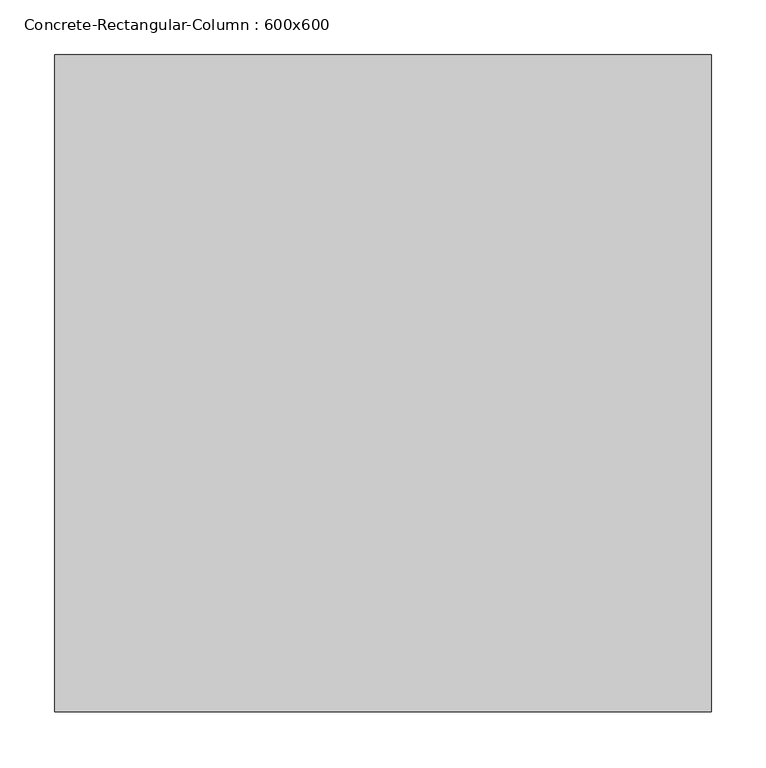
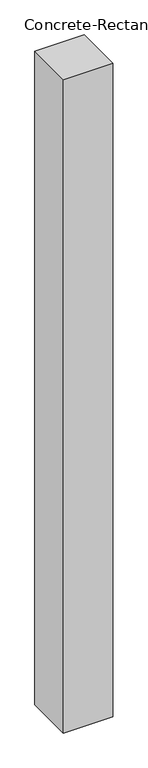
"""IFC4 building model written with IfcOpenShell, lengths in millimetres: column geometry, Concrete-Rectangular-Column : 600x600."""

from ifc_helpers import new_model, si_unit, frame, origin, place, context, project, spatial, polyline, outline, extrude, source, transform, mapped, element, save


def concrete_rectangular_column_600x600_795a6e5d(model_context):
    return source(origin(), model_context, "Body", "SweptSolid", [
        extrude(outline(polyline([(300.0, 300.0), (300.0, -300.0), (-300.0, -300.0), (-300.0, 300.0), (300.0, 300.0)])), frame((0.0, 0.0, -7500.0), z_axis=(0.0, 0.0, 1.0), x_axis=(1.0, 0.0, 0.0)), (0.0, 0.0, 1.0), 8400.0),
    ])


if __name__ == "__main__":
    model = new_model("IFC4")
    model_context = context("Model", 3, world=origin())
    ifc_project = project(units=[si_unit("LENGTHUNIT", "METRE", prefix="MILLI")], contexts=[model_context])
    site = spatial("IfcSite", under=ifc_project)
    building = spatial("IfcBuilding", under=site)
    placement = place(None, origin())
    concrete_rectangular_column_600x600_shape = concrete_rectangular_column_600x600_795a6e5d(model_context)
    element("IfcColumn", 1, ObjectType="Concrete-Rectangular-Column : 600x600", at=placement, inside=building, context=model_context, shape_type="MappedRepresentation", body=[
        mapped(concrete_rectangular_column_600x600_shape, transform((0.0, 0.0, 0.0), x_axis=(1.0, 0.0, 0.0), y_axis=(0.0, 1.0, 0.0), z_axis=(0.0, 0.0, 1.0))),
    ])
    save(model, "model.ifc")
